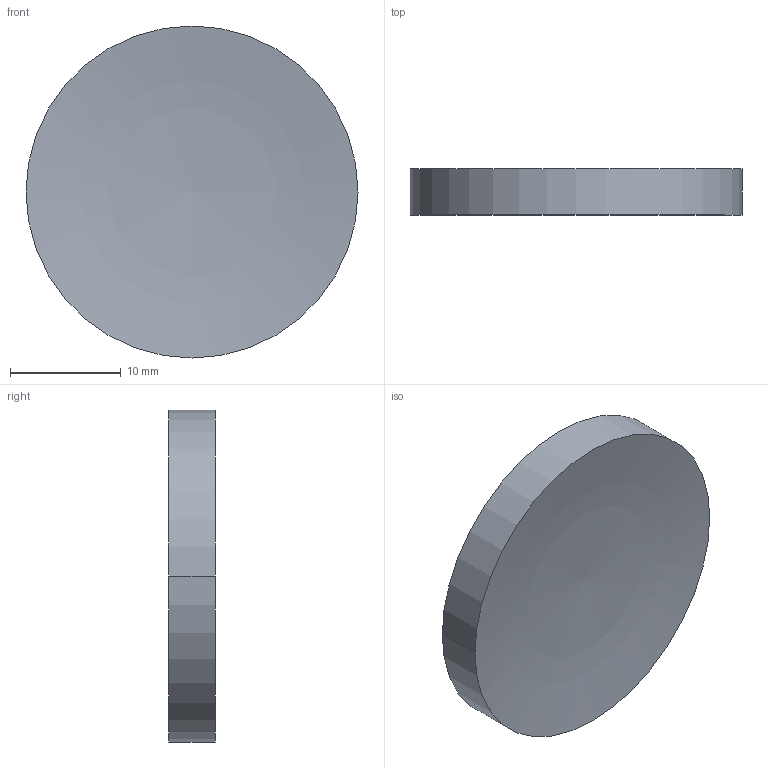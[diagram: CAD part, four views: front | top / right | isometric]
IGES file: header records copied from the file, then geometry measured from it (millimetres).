
Global section: file name: No Iges File Name specified; native system: AutoDesk Inventor R12.0; preprocessor: AutoDesk Inventor Iges Exporter R12.0; author: No Author specified; organization: No Organization specified; date: 20090520.081309; units: millimetre
Bounding box: 30 x 4.18 x 30 mm (x, y, z)
Volume: 2182.5 mm3; surface area: 1815 mm2
Topology: 1 solids, 1 shells, 4 faces, 6 edges, 4 vertices
Faces by surface type: cylinder 2, bspline 2
